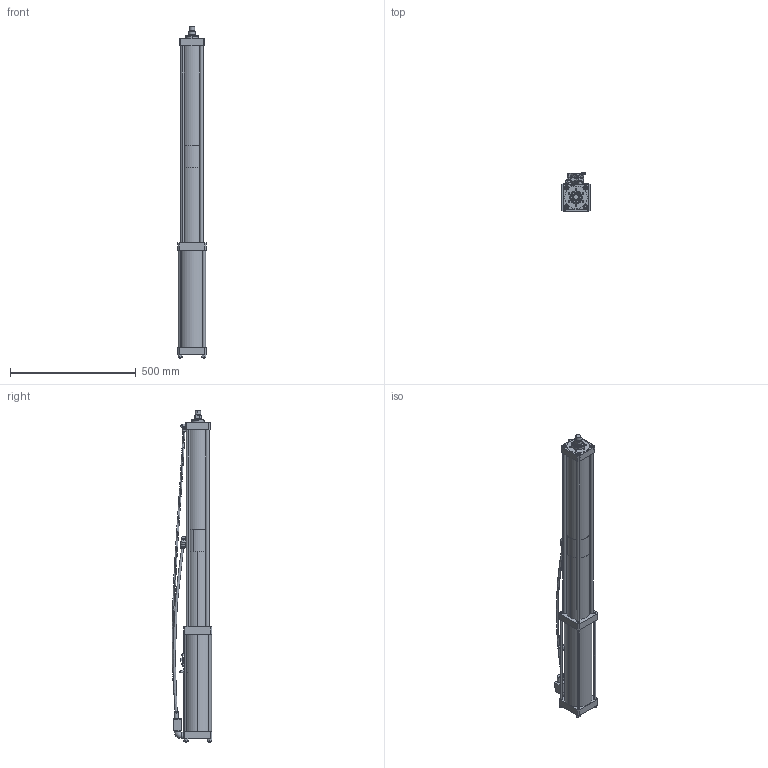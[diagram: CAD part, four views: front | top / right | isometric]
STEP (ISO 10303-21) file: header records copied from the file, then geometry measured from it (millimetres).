
FILE_DESCRIPTION (( 'STEP AP203' ), '1' );
FILE_NAME ('BS04-350-12S.step', '2025-07-31T09:39:43', ( 'Ranlm' ), ( '' ), 'SwSTEP 2.0', 'SolidWorks 2022', '' );
FILE_SCHEMA (( 'CONFIG_CONTROL_DESIGN' ));
Length unit declared in the file: millimetre
Products named in the file (1): BS04-350-12S
Bounding box: 112 x 157.98 x 1318 mm (x, y, z)
Surface area: 763537.5 mm2 (no closed solid volume)
Topology: 0 solids, 64 shells, 517 faces, 1504 edges, 1036 vertices
Faces by surface type: plane 223, cylinder 176, cone 92, torus 19, bspline 6, sphere 1
Entity records: 18384 total; most frequent: CARTESIAN_POINT 4377, DIRECTION 3143, ORIENTED_EDGE 2422, EDGE_CURVE 1496, AXIS2_PLACEMENT_3D 1174, VERTEX_POINT 1035, LINE 795, VECTOR 795
